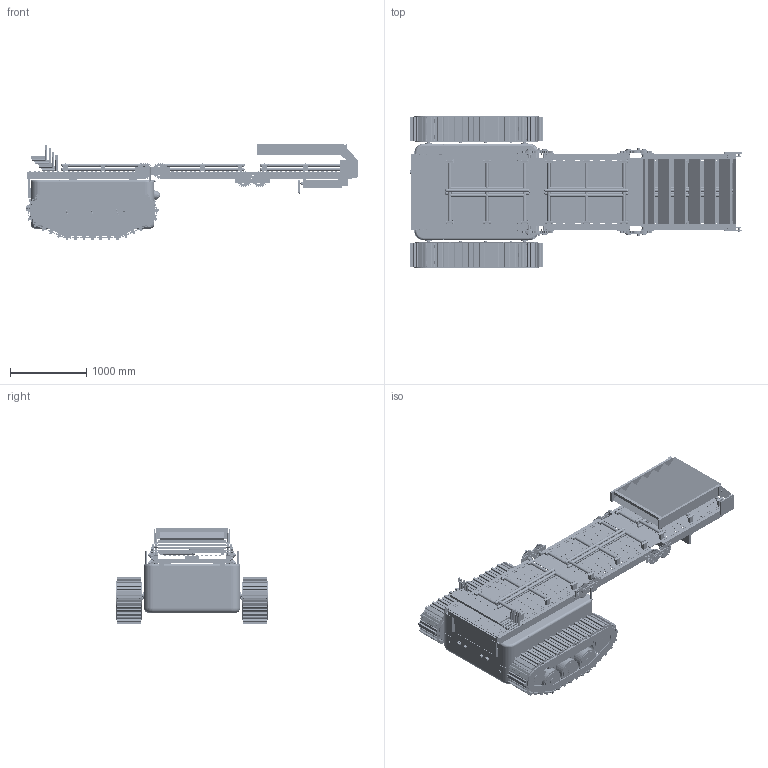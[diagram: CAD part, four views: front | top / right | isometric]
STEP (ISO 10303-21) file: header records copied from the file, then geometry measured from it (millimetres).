
FILE_DESCRIPTION(('Open CASCADE Model'),'2;1');
FILE_NAME('Open CASCADE Shape Model','2026-11-24T20:13:17',('Author'),( 'Open CASCADE'),'Open CASCADE STEP processor 7.9','Open CASCADE 7.9' ,'Unknown');
FILE_SCHEMA(('AUTOMOTIVE_DESIGN { 1 0 10303 214 1 1 1 1 }'));
Length unit declared in the file: centimetre
Products named in the file (676): AKORA_C08_SECOND_PLATFORM_OPEN; 01_MAIN_BODY; BODY_LOWER; BODY_LOWER_TUB; BODY_JOINT_FLANGE_INNER; BODY_UPPER; BODY_UPPER_TUB; BODY_JOINT_BEAD; COVER_GASKET; COVER_GASKET_EPDM_10x8; PEDESTAL_GROMMET_600_L; PEDESTAL_GROMMET_600_R; PEDESTAL_GROMMET_1380_L; PEDESTAL_GROMMET_1380_R; SERVICE_PANEL_REAR_GASKET; COVER_INTERLOCK; COVER_SEAT_RING_FEMALE; COVER_LOCKS; COVER_QUARTER_TURN_STUD_01; COVER_RECEPTACLE_01; COVER_QUARTER_TURN_STUD_02; COVER_RECEPTACLE_02; COVER_QUARTER_TURN_STUD_03; COVER_RECEPTACLE_03; COVER_QUARTER_TURN_STUD_04; COVER_RECEPTACLE_04; COVER_QUARTER_TURN_STUD_05; COVER_RECEPTACLE_05; COVER_QUARTER_TURN_STUD_06; COVER_RECEPTACLE_06; COVER_QUARTER_TURN_STUD_07; COVER_RECEPTACLE_07; COVER_QUARTER_TURN_STUD_08; COVER_RECEPTACLE_08; COVER_QUARTER_TURN_STUD_09; COVER_RECEPTACLE_09; COVER_QUARTER_TURN_STUD_10; COVER_RECEPTACLE_10; INTERNAL_FRAME; FRAME_RAIL_L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
Assembly tree (743 placements, depth 5):
  AKORA_C08_SECOND_PLATFORM_OPEN
    01_MAIN_BODY
      BODY_LOWER
        BODY_LOWER_TUB
        BODY_JOINT_FLANGE_INNER
      BODY_UPPER
        BODY_UPPER_TUB
        BODY_JOINT_BEAD
      COVER_GASKET
        COVER_GASKET_EPDM_10x8
        PEDESTAL_GROMMET_600_L
        PEDESTAL_GROMMET_600_R
        PEDESTAL_GROMMET_1380_L
        PEDESTAL_GROMMET_1380_R
        SERVICE_PANEL_REAR_GASKET
      COVER_INTERLOCK
        COVER_SEAT_RING_FEMALE
      COVER_LOCKS
        COVER_QUARTER_TURN_STUD_01
        COVER_RECEPTACLE_01
        COVER_QUARTER_TURN_STUD_02
        COVER_RECEPTACLE_02
        COVER_QUARTER_TURN_STUD_03
        COVER_RECEPTACLE_03
        COVER_QUARTER_TURN_STUD_04
        COVER_RECEPTACLE_04
        COVER_QUARTER_TURN_STUD_05
        COVER_RECEPTACLE_05
        COVER_QUARTER_TURN_STUD_06
        COVER_RECEPTACLE_06
        COVER_QUARTER_TURN_STUD_07
        COVER_RECEPTACLE_07
        COVER_QUARTER_TURN_STUD_08
        COVER_RECEPTACLE_08
        COVER_QUARTER_TURN_STUD_09
        COVER_RECEPTACLE_09
        COVER_QUARTER_TURN_STUD_10
        COVER_RECEPTACLE_10
      INTERNAL_FRAME
        FRAME_RAIL_L
        FRAME_RAIL_R
        FRAME_CROSS_1
        FRAME_CROSS_2
        FRAME_CROSS_3
        FRAME_CROSS_4
        FRAME_CROSS_5
        TRACK_MOTOR_PLATE_L
        TRACK_MOTOR_PLATE_R
      MOUNTING_BRACKETS
        FRAME_WALL_BRACKET_L_400
        FRAME_WALL_BRACKET_L_1300
        FRAME_WALL_BRACKET_R_400
        FRAME_WALL_BRACKET_R_1300
        P1_PEDESTAL_600_L
        P1_PEDESTAL_600_R
        P1_PEDESTAL_1380_L
        P1_PEDESTAL_1380_R
        REAR_LANDING_BRACKET_L
        REAR_LANDING_BRACKET_R
      SERVICE_PANELS
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Bounding box: 4349.89 x 1994 x 1265.68 mm (x, y, z)
Volume: 628183892.7 mm3; surface area: 87864523.7 mm2
Topology: 1494 solids, 1498 shells, 16526 faces, 39817 edges, 26536 vertices
Faces by surface type: plane 14101, cylinder 2385, sphere 22, torus 16, revolution 2
Full cylindrical faces by diameter (mm): 8 x18, 9 x20, 9.2 x10, 10 x150, 10.5 x4, 12 x34, 13 x4, 14 x4, 16 x36, 17 x8, 18 x4, 20 x15, 22 x12, 24 x39, 25 x16, 28 x34, 30 x64, 30.6 x40, 32 x22, 34 x36, 36 x4, 37 x54, 40 x96, 41 x8, 42 x54, 44 x11, 48 x24, 56 x2, 60 x5, 62 x4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
Entity records: 931551 total; most frequent: CARTESIAN_POINT 190398, DIRECTION 134825, LINE 95116, VECTOR 95116, ORIENTED_EDGE 69780, PCURVE 69764, DEFINITIONAL_REPRESENTATION 69764, EDGE_CURVE 34882
